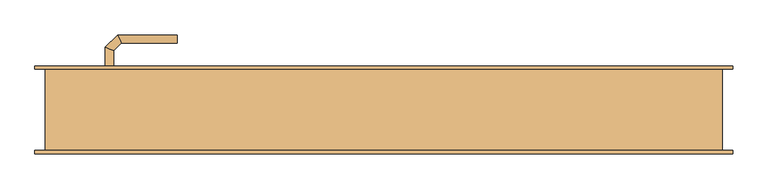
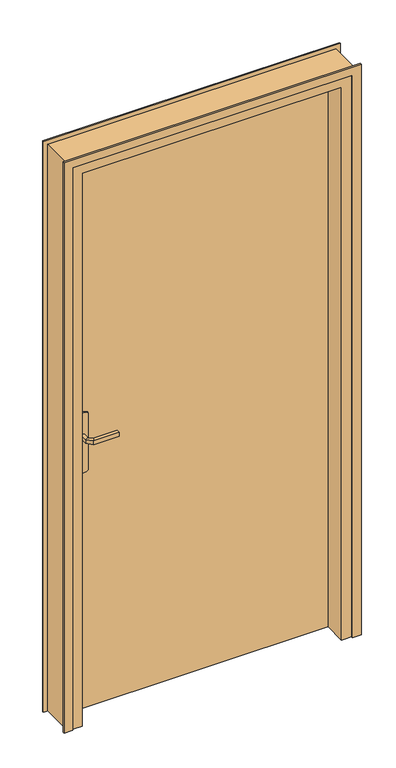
"""IFC4 building model written with IfcOpenShell, lengths in millimetres: door geometry, @_Int. Simple : @_PP (0.93m x 2.04m)."""

from ifc_helpers import new_model, si_unit, point, frame, frame_2d, origin, origin_with_axes, place, context, project, spatial, polyline, circle_curve, ellipse_curve, trimmed, segment, composite_curve, outline, extrude, faceted_brep, source, transform, mapped, element, save
from ifc_brep_helpers import plane_surface, cylinder_surface, advanced_brep


def door_1f1bc939(model_context):
    return source(origin(), model_context, "Body", "SolidModel", [
        extrude(outline(composite_curve([segment(trimmed(circle_curve(frame_2d((904.6410162, -440.0)), 40.0), [point((870.0, -460.0))], [point((870.0, -420.0))], False, "CARTESIAN"), True, "CONTINUOUS"), segment(polyline([(870.0, -420.0), (1080.0, -420.0)]), True, "CONTINUOUS"), segment(trimmed(circle_curve(frame_2d((1045.3589838, -440.0)), 40.0), [point((1080.0, -420.0))], [point((1080.0, -460.0))], False, "CARTESIAN"), True, "CONTINUOUS"), segment(polyline([(1080.0, -460.0), (870.0, -460.0)]), True, "CONTINUOUS")], self_intersect=False)), frame((0.0, 60.0, 0.0), z_axis=(0.0, 1.0, 0.0), x_axis=(0.0, 0.0, 1.0)), (0.0, 0.0, 1.0), 5.0),
        extrude(outline(composite_curve([segment(trimmed(circle_curve(frame_2d((1045.3589838, -440.0)), 40.0), [point((1080.0, -420.0))], [point((1080.0, -460.0))], False, "CARTESIAN"), True, "CONTINUOUS"), segment(polyline([(1080.0, -460.0), (870.0, -460.0)]), True, "CONTINUOUS"), segment(trimmed(circle_curve(frame_2d((904.6410162, -440.0)), 40.0), [point((870.0, -460.0))], [point((870.0, -420.0))], False, "CARTESIAN"), True, "CONTINUOUS"), segment(polyline([(870.0, -420.0), (1080.0, -420.0)]), True, "CONTINUOUS")], self_intersect=False)), frame((0.0, 15.0, 0.0), z_axis=(0.0, 1.0, 0.0), x_axis=(0.0, 0.0, 1.0)), (0.0, 0.0, 1.0), 5.0),
        advanced_brep(
        [(-446.0, 65.0, 1007.0), (-446.0, 65.0, 993.0), (-434.0, 65.0, 993.0), (-434.0, 65.0, 1007.0), (-434.0, 87.680388, 1007.0), (-446.0, 92.6509507, 1007.0), (-434.0, 87.680388, 993.0), (-446.0, 92.6509507, 993.0), (-422.6522273, 99.0281607, 1007.0), (-427.62279, 111.0281607, 1007.0), (-422.6522273, 99.0281607, 993.0), (-427.62279, 111.0281607, 993.0), (-339.9813594, 111.0281607, 1007.0), (-339.9813594, 99.0281607, 1007.0), (-339.9813594, 99.0281607, 993.0), (-339.9813594, 111.0281607, 993.0)],
        [
            (0, 1),
            (1, 2, circle_curve(frame((-440.0, 65.0, 1013.0457722), z_axis=(0.0, -1.0, 0.0), x_axis=(1.0, 0.0, 0.0)), 20.9244589)),
            (2, 3),
            (3, 0, circle_curve(frame((-440.0, 65.0, 986.9542278), z_axis=(0.0, -1.0, 0.0), x_axis=(1.0, 0.0, 0.0)), 20.9244589)),
            (3, 4),
            (4, 5, ellipse_curve(frame((-440.0, 90.1656693, 986.9542278), z_axis=(-0.3826834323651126, -0.9238795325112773, 0.0), x_axis=(0.9238795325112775, -0.38268343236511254, 0.0)), 22.6484711, 20.9244589)),
            (5, 0),
            (2, 6),
            (6, 4),
            (1, 7),
            (7, 6, ellipse_curve(frame((-440.0, 90.1656693, 1013.0457722), z_axis=(-0.3826834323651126, -0.9238795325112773, 0.0), x_axis=(0.9238795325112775, -0.38268343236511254, 0.0)), 22.6484711, 20.9244589)),
            (5, 7),
            (4, 8),
            (8, 9, ellipse_curve(frame((-425.1375086, 105.0281607, 986.9542278), z_axis=(-0.9238795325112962, -0.38268343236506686, 0.0), x_axis=(0.3826834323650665, -0.9238795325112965, 0.0)), 22.6484711, 20.9244589)),
            (9, 5),
            (6, 10),
            (10, 8),
            (7, 11),
            (11, 10, ellipse_curve(frame((-425.1375086, 105.0281607, 1013.0457722), z_axis=(-0.9238795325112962, -0.38268343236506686, 0.0), x_axis=(0.3826834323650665, -0.9238795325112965, 0.0)), 22.6484711, 20.9244589)),
            (9, 11),
            (12, 13, circle_curve(frame((-339.9813594, 105.0281607, 986.9542278), z_axis=(1.0, 0.0, 0.0), x_axis=(0.0, -1.0, 0.0)), 20.9244589)),
            (13, 14),
            (14, 15, circle_curve(frame((-339.9813594, 105.0281607, 1013.0457722), z_axis=(1.0, 0.0, 0.0), x_axis=(0.0, -1.0, 0.0)), 20.9244589)),
            (15, 12),
            (8, 13),
            (12, 9),
            (10, 14),
            (11, 15),
        ],
        [
            plane_surface(frame((-449.2195445, 65.0, 1000.0), z_axis=(0.0, -1.0, 0.0), x_axis=(0.0, 0.0, -1.0))),
            cylinder_surface(frame((-440.0, 65.0, 986.9542278), z_axis=(0.0, -1.0, 0.0), x_axis=(1.0, 0.0, 0.0)), 20.9244589),
            plane_surface(frame((-434.0, 65.0, 1007.0), z_axis=(1.0, 0.0, 0.0), x_axis=(0.0, 1.0, 0.0))),
            cylinder_surface(frame((-440.0, 65.0, 1013.0457722), z_axis=(0.0, -1.0, 0.0), x_axis=(1.0, 0.0, 0.0)), 20.9244589),
            plane_surface(frame((-446.0, 65.0, 993.0), z_axis=(-1.0, 0.0, 0.0), x_axis=(0.0, 1.0, 0.0))),
            cylinder_surface(frame((-440.0, 90.1656693, 986.9542278), z_axis=(-0.7071067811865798, -0.7071067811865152, 0.0), x_axis=(0.7071067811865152, -0.7071067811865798, 0.0)), 20.9244589),
            plane_surface(frame((-434.0, 87.680388, 1007.0), z_axis=(0.7071067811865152, -0.7071067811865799, 0.0), x_axis=(0.7071067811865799, 0.7071067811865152, 0.0))),
            cylinder_surface(frame((-440.0, 90.1656693, 1013.0457722), z_axis=(-0.7071067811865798, -0.7071067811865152, 0.0), x_axis=(0.7071067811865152, -0.7071067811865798, 0.0)), 20.9244589),
            plane_surface(frame((-446.0, 92.6509507, 993.0), z_axis=(-0.7071067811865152, 0.7071067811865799, 0.0), x_axis=(0.7071067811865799, 0.7071067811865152, 0.0))),
            plane_surface(frame((-339.9813594, 105.0281607, 990.7804555), z_axis=(1.0, 0.0, 0.0), x_axis=(0.0, -1.0, 0.0))),
            cylinder_surface(frame((-425.1375086, 105.0281607, 986.9542278), z_axis=(-1.0, 0.0, 0.0), x_axis=(0.0, -1.0, 0.0)), 20.9244589),
            plane_surface(frame((-422.6522273, 99.0281607, 1007.0), z_axis=(0.0, -1.0, 0.0), x_axis=(1.0, 0.0, 0.0))),
            cylinder_surface(frame((-425.1375086, 105.0281607, 1013.0457722), z_axis=(-1.0, 0.0, 0.0), x_axis=(0.0, -1.0, 0.0)), 20.9244589),
            plane_surface(frame((-427.62279, 111.0281607, 993.0), z_axis=(0.0, 1.0, 0.0), x_axis=(1.0, 0.0, 0.0))),
        ],
        [
            (0, [[1, 2, 3, 4]]),
            (1, [[5, 6, 7, -4]]),
            (2, [[8, 9, -5, -3]]),
            (3, [[10, 11, -8, -2]]),
            (4, [[-7, 12, -10, -1]]),
            (5, [[13, 14, 15, -6]]),
            (6, [[16, 17, -13, -9]]),
            (7, [[18, 19, -16, -11]]),
            (8, [[-15, 20, -18, -12]]),
            (9, [[21, 22, 23, 24]]),
            (10, [[25, -21, 26, -14]]),
            (11, [[27, -22, -25, -17]]),
            (12, [[28, -23, -27, -19]]),
            (13, [[-26, -24, -28, -20]]),
        ],
    ),
        advanced_brep(
        [(-434.0, 15.0, 993.0), (-446.0, 15.0, 993.0), (-446.0, 15.0, 1007.0), (-434.0, 15.0, 1007.0), (-434.0, -7.4852045, 1007.0), (-434.0, -7.4852045, 993.0), (-446.0, -12.4557673, 1007.0), (-446.0, -12.4557673, 993.0), (-422.5147186, -18.9704859, 1007.0), (-422.5147186, -18.9704859, 993.0), (-427.4852814, -30.9704859, 1007.0), (-427.4852814, -30.9704859, 993.0), (-339.9542163, -18.9704859, 993.0), (-339.9542163, -18.9704859, 1007.0), (-339.9542163, -30.9704859, 1007.0), (-339.9542163, -30.9704859, 993.0)],
        [
            (0, 1, circle_curve(frame((-440.0, 15.0, 1013.0457722), z_axis=(0.0, 1.0, 0.0), x_axis=(-1.0, 0.0, 0.0)), 20.9244589)),
            (1, 2),
            (2, 3, circle_curve(frame((-440.0, 15.0, 986.9542278), z_axis=(0.0, 1.0, 0.0), x_axis=(-1.0, 0.0, 0.0)), 20.9244589)),
            (3, 0),
            (3, 4),
            (4, 5),
            (5, 0),
            (2, 6),
            (6, 4, ellipse_curve(frame((-440.0, -9.9704859, 986.9542278), z_axis=(-0.3826834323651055, 0.9238795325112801, 0.0), x_axis=(0.9238795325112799, 0.3826834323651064, 0.0)), 22.6484711, 20.9244589)),
            (1, 7),
            (7, 6),
            (5, 7, ellipse_curve(frame((-440.0, -9.9704859, 1013.0457722), z_axis=(-0.3826834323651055, 0.9238795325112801, 0.0), x_axis=(0.9238795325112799, 0.3826834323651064, 0.0)), 22.6484711, 20.9244589)),
            (4, 8),
            (8, 9),
            (9, 5),
            (6, 10),
            (10, 8, ellipse_curve(frame((-425.0, -24.9704859, 986.9542278), z_axis=(-0.9238795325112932, 0.382683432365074, 0.0), x_axis=(0.3826834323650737, 0.9238795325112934, 0.0)), 22.6484711, 20.9244589)),
            (7, 11),
            (11, 10),
            (9, 11, ellipse_curve(frame((-425.0, -24.9704859, 1013.0457722), z_axis=(-0.9238795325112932, 0.382683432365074, 0.0), x_axis=(0.3826834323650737, 0.9238795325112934, 0.0)), 22.6484711, 20.9244589)),
            (12, 13),
            (13, 14, circle_curve(frame((-339.9542163, -24.9704859, 986.9542278), z_axis=(1.0, 0.0, 0.0), x_axis=(0.0, -1.0, 0.0)), 20.9244589)),
            (14, 15),
            (15, 12, circle_curve(frame((-339.9542163, -24.9704859, 1013.0457722), z_axis=(1.0, 0.0, 0.0), x_axis=(0.0, -1.0, 0.0)), 20.9244589)),
            (8, 13),
            (12, 9),
            (10, 14),
            (11, 15),
        ],
        [
            plane_surface(frame((-449.2195445, 15.0, 1000.0), z_axis=(0.0, 1.0, 0.0), x_axis=(0.0, 0.0, 1.0))),
            plane_surface(frame((-434.0, 15.0, 993.0), z_axis=(1.0, 0.0, 0.0), x_axis=(0.0, -1.0, 0.0))),
            cylinder_surface(frame((-440.0, 15.0, 986.9542278), z_axis=(0.0, 1.0, 0.0), x_axis=(-1.0, 0.0, 0.0)), 20.9244589),
            plane_surface(frame((-446.0, 15.0, 1007.0), z_axis=(-1.0, 0.0, 0.0), x_axis=(0.0, -1.0, 0.0))),
            cylinder_surface(frame((-440.0, 15.0, 1013.0457722), z_axis=(0.0, 1.0, 0.0), x_axis=(-1.0, 0.0, 0.0)), 20.9244589),
            plane_surface(frame((-434.0, -7.4852045, 993.0), z_axis=(0.7071067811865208, 0.7071067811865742, 0.0), x_axis=(0.7071067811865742, -0.7071067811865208, 0.0))),
            cylinder_surface(frame((-440.0, -9.9704859, 986.9542278), z_axis=(-0.7071067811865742, 0.7071067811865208, 0.0), x_axis=(-0.7071067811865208, -0.7071067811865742, 0.0)), 20.9244589),
            plane_surface(frame((-446.0, -12.4557673, 1007.0), z_axis=(-0.7071067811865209, -0.7071067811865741, 0.0), x_axis=(0.7071067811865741, -0.7071067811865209, 0.0))),
            cylinder_surface(frame((-440.0, -9.9704859, 1013.0457722), z_axis=(-0.7071067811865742, 0.7071067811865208, 0.0), x_axis=(-0.7071067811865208, -0.7071067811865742, 0.0)), 20.9244589),
            plane_surface(frame((-339.9542163, -24.9704859, 990.7804555), z_axis=(1.0, 0.0, 0.0), x_axis=(0.0, -1.0, 0.0))),
            plane_surface(frame((-422.5147186, -18.9704859, 993.0), z_axis=(0.0, 1.0, 0.0), x_axis=(1.0, 0.0, 0.0))),
            cylinder_surface(frame((-425.0, -24.9704859, 986.9542278), z_axis=(-1.0, 0.0, 0.0), x_axis=(0.0, -1.0, 0.0)), 20.9244589),
            plane_surface(frame((-427.4852814, -30.9704859, 1007.0), z_axis=(0.0, -1.0, 0.0), x_axis=(1.0, 0.0, 0.0))),
            cylinder_surface(frame((-425.0, -24.9704859, 1013.0457722), z_axis=(-1.0, 0.0, 0.0), x_axis=(0.0, -1.0, 0.0)), 20.9244589),
        ],
        [
            (0, [[1, 2, 3, 4]]),
            (1, [[5, 6, 7, -4]]),
            (2, [[8, 9, -5, -3]]),
            (3, [[10, 11, -8, -2]]),
            (4, [[-7, 12, -10, -1]]),
            (5, [[13, 14, 15, -6]]),
            (6, [[16, 17, -13, -9]]),
            (7, [[18, 19, -16, -11]]),
            (8, [[-15, 20, -18, -12]]),
            (9, [[21, 22, 23, 24]]),
            (10, [[25, -21, 26, -14]]),
            (11, [[27, -22, -25, -17]]),
            (12, [[28, -23, -27, -19]]),
            (13, [[-26, -24, -28, -20]]),
        ],
    ),
        extrude(outline(polyline([(-500.0, 20.0), (-500.0, 60.0), (430.0, 60.0), (430.0, 20.0), (-500.0, 20.0)])), origin_with_axes(), (0.0, 0.0, 1.0), 2040.0),
        faceted_brep([(-535.0, 60.0, 0.0), (-500.0, 60.0, 0.0), (-500.0, 20.0, 0.0), (-485.0, 20.0, 0.0), (-485.0, -60.0, 0.0), (-535.0, -60.0, 0.0), (-535.0, -60.0, 2075.0), (-535.0, 60.0, 2075.0), (-485.0, -60.0, 2025.0), (415.0, -60.0, 2025.0), (415.0, -60.0, 0.0), (465.0, -60.0, 0.0), (465.0, -60.0, 2075.0), (-485.0, 20.0, 2025.0), (-500.0, 20.0, 2040.0), (430.0, 20.0, 2040.0), (430.0, 20.0, 0.0), (415.0, 20.0, 0.0), (415.0, 20.0, 2025.0), (-500.0, 60.0, 2040.0), (465.0, 60.0, 2075.0), (465.0, 60.0, 0.0), (430.0, 60.0, 0.0), (430.0, 60.0, 2040.0)], [[[0, 1, 2, 3, 4, 5]], [[5, 6, 7, 0]], [[4, 8, 9, 10, 11, 12, 6, 5]], [[3, 13, 8, 4]], [[2, 14, 15, 16, 17, 18, 13, 3]], [[1, 19, 14, 2]], [[0, 7, 20, 21, 22, 23, 19, 1]], [[12, 11, 21, 20]], [[21, 11, 10, 17, 16, 22]], [[18, 17, 10, 9]], [[23, 22, 16, 15]], [[6, 12, 20, 7]], [[13, 18, 9, 8]], [[19, 23, 15, 14]]]),
        extrude(outline(polyline([(0.0, -520.0), (2060.0, -520.0), (2060.0, 450.0), (0.0, 450.0), (0.0, 480.0), (2090.0, 480.0), (2090.0, -550.0), (0.0, -550.0), (0.0, -520.0)])), frame((0.0, 60.0, 0.0), z_axis=(0.0, 1.0, 0.0), x_axis=(0.0, 0.0, 1.0)), (0.0, 0.0, 1.0), 5.0),
        extrude(outline(polyline([(0.0, -520.0), (2060.0, -520.0), (2060.0, 450.0), (0.0, 450.0), (0.0, 480.0), (2090.0, 480.0), (2090.0, -550.0), (0.0, -550.0), (0.0, -520.0)])), frame((0.0, -65.0, 0.0), z_axis=(0.0, 1.0, 0.0), x_axis=(0.0, 0.0, 1.0)), (0.0, 0.0, 1.0), 5.0),
    ])


if __name__ == "__main__":
    model = new_model("IFC4")
    model_context = context("Model", 3, world=origin())
    ifc_project = project(units=[si_unit("LENGTHUNIT", "METRE", prefix="MILLI")], contexts=[model_context])
    site = spatial("IfcSite", under=ifc_project)
    building = spatial("IfcBuilding", under=site)
    placement = place(None, origin())
    door_shape = door_1f1bc939(model_context)
    element("IfcDoor", 1, ObjectType="@_Int. Simple : @_PP (0.93m x 2.04m)", at=placement, inside=building, context=model_context, shape_type="MappedRepresentation", body=[
        mapped(door_shape, transform((0.0, 0.0, 0.0), x_axis=(1.0, 0.0, 0.0), y_axis=(0.0, 1.0, 0.0), z_axis=(0.0, 0.0, 1.0))),
    ])
    save(model, "model.ifc")
